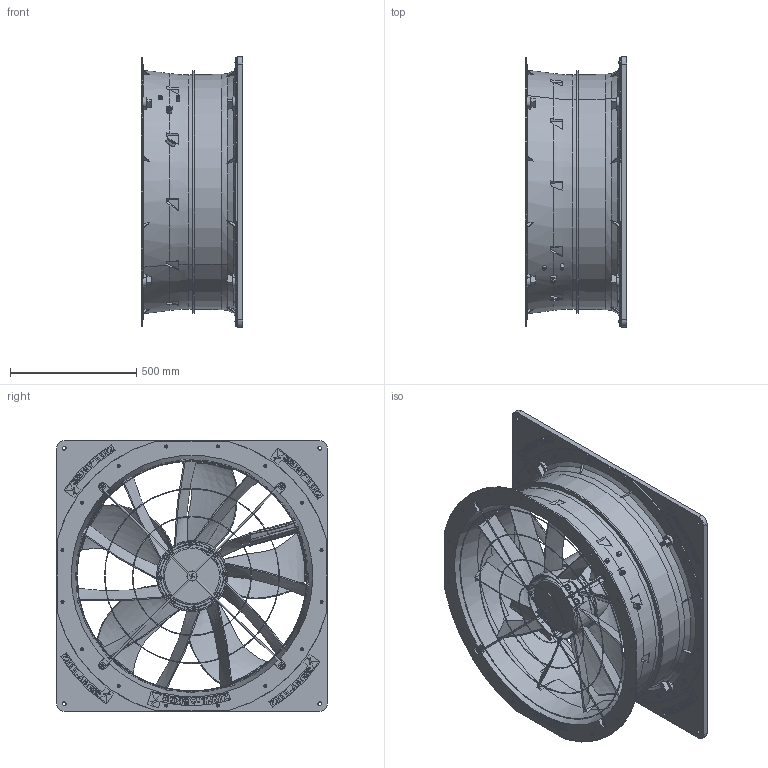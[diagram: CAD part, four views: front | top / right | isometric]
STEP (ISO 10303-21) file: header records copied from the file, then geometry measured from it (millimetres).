
FILE_DESCRIPTION((''),'2;1');
FILE_NAME('19091-QG07-04-06','2017-01-30T',('geisslem'),(''),'CREO PARAMETRIC BY PTC INC, 2016130','CREO PARAMETRIC BY PTC INC, 2016130','');
FILE_SCHEMA(('AUTOMOTIVE_DESIGN { 1 0 10303 214 1 1 1 1 }'));
Length unit declared in the file: millimetre
Products named in the file (1): 19091-QG07-04-06
Bounding box: 400 x 1070 x 1070 mm (x, y, z)
Volume: 32729752.9 mm3; surface area: 5783064.1 mm2
Topology: 7 solids, 7 shells, 3964 faces, 10605 edges, 6928 vertices
Faces by surface type: plane 2032, cylinder 811, bspline 355, cone 328, extrusion 298, torus 93, sphere 47
Entity records: 191576 total; most frequent: CARTESIAN_POINT 76699, ORIENTED_EDGE 21210, DIRECTION 17231, EDGE_CURVE 10605, VERTEX_POINT 6928, VECTOR 5973, LINE 5675, AXIS2_PLACEMENT_3D 5629
